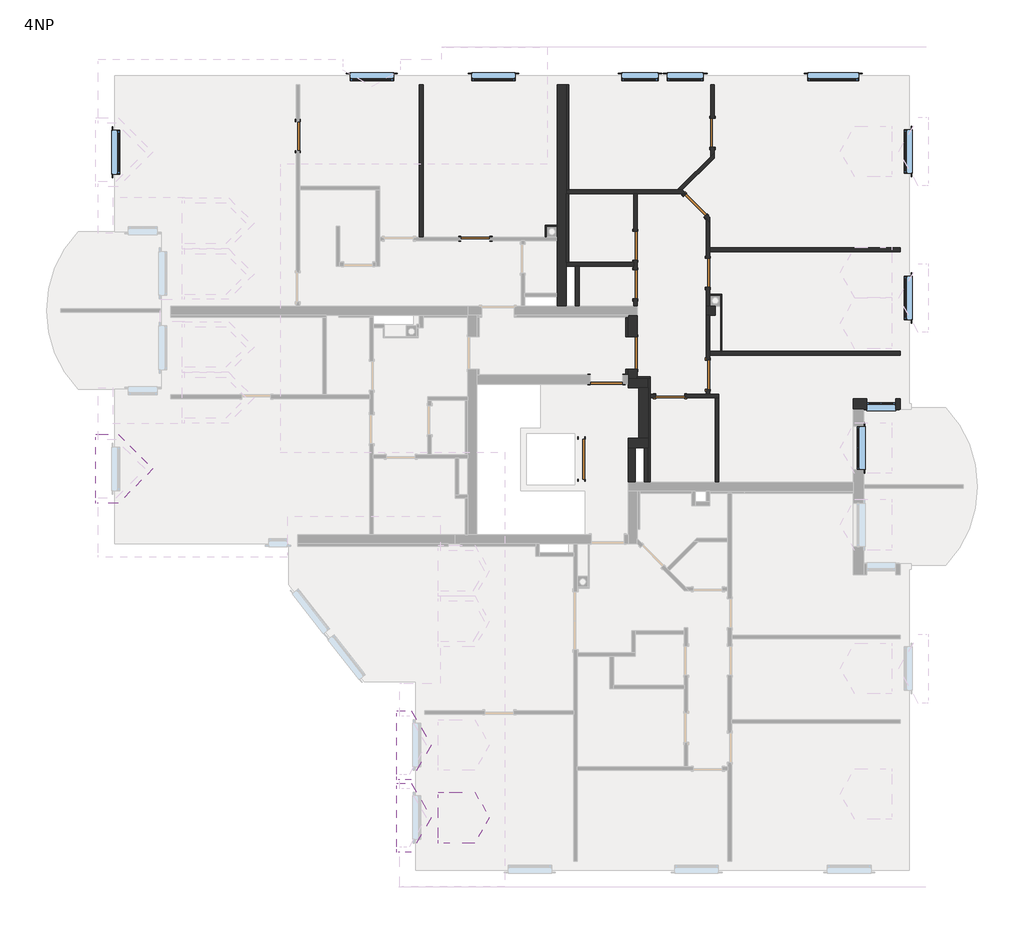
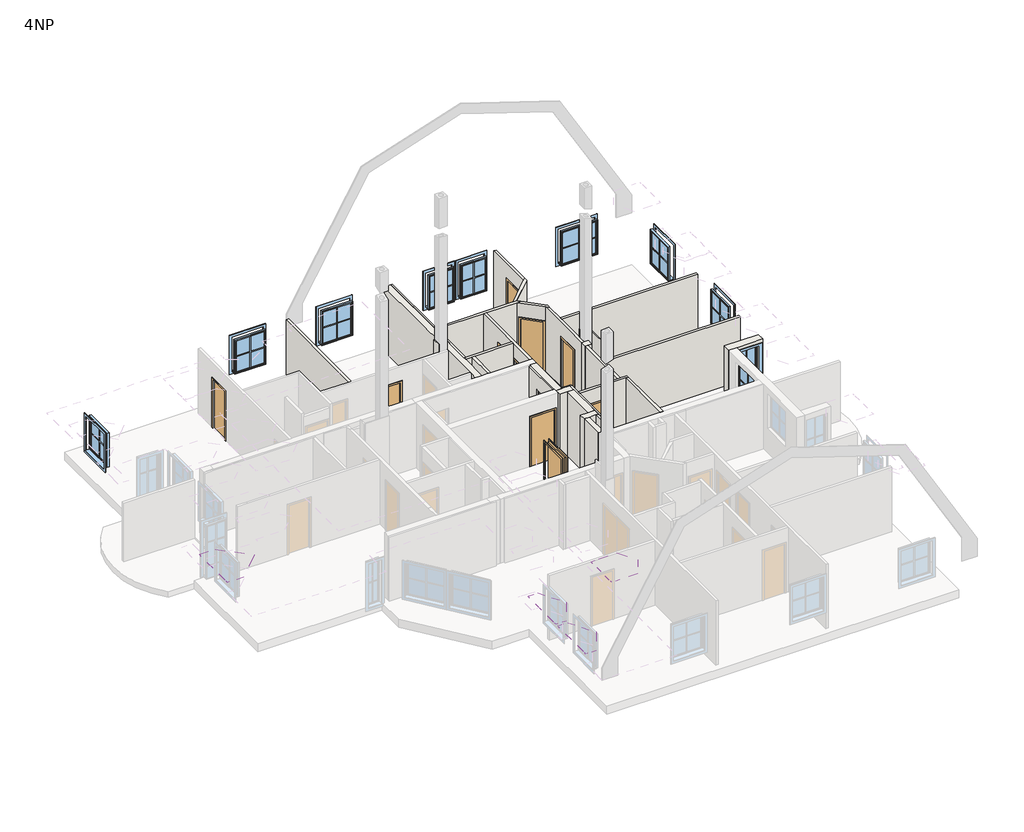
# One storey, part 3 of 5: 32 walls, 12 doors, 10 windows, 4 roofs.
"""IFC4 building model written with IfcOpenShell, lengths in millimetres."""

from ifc_helpers import new_model, si_unit, frame, origin, place, context, project, spatial, polyline, outline, extrude, faceted_brep, transform, mapped, element, save
from components import sd_1100x2000_1d62120a, sd_800x2000_6a16926d, sd_800x2000_80f4ff25, sd_900x2000_a6683946, sd_900x2000_4224ae2a, standard_window_with_mullions_d3525f46, standard_window_with_mullions_80486b60, standard_window_with_mullions_12e20a72, window_2_4fa60929

model = new_model("IFC4")

# Units and contexts
model_context = context("Model", 3, world=origin())
ifc_project = project(units=[si_unit("LENGTHUNIT", "METRE", prefix="MILLI")], contexts=[model_context])

# Site, building, storey
site = spatial("IfcSite", under=ifc_project)
building = spatial("IfcBuilding", under=site)
storey = spatial("IfcBuildingStorey", under=building, Name="4NP", Elevation=8850.0)

# Doors
placement = place(None, origin())
sd_1100x2000_shape = sd_1100x2000_1d62120a(model_context)
element("IfcDoor", 1, ObjectType="JednokridlePlne : SD 1100x2000", at=placement, inside=storey, context=model_context, shape_type="MappedRepresentation", body=[
    mapped(sd_1100x2000_shape, transform((277.8037835, 250.1290541, 8850.0), x_axis=(0.0, -1.0, 0.0), y_axis=(1.0, 0.0, 0.0), z_axis=(0.0, 0.0, 1.0))),
])
sd_800x2000_shape = sd_800x2000_6a16926d(model_context)
element("IfcDoor", 2, ObjectType="JednokridlePlne : SD 800x2000", at=placement, inside=storey, context=model_context, shape_type="MappedRepresentation", body=[
    mapped(sd_800x2000_shape, transform((1762.8037835, 5063.1824611, 8850.0), x_axis=(0.0, 1.0, 0.0), y_axis=(-1.0, 0.0, 0.0), z_axis=(0.0, 0.0, 1.0))),
])
element("IfcDoor", 3, ObjectType="JednokridlePlne : SD 800x2000", at=placement, inside=storey, context=model_context, shape_type="MappedRepresentation", body=[
    mapped(sd_800x2000_shape, transform((2717.8037831, 1986.2076978, 8850.0), x_axis=(1.0, 0.0, 0.0), y_axis=(0.0, 1.0, 0.0), z_axis=(0.0, 0.0, 1.0))),
])
element("IfcDoor", 4, ObjectType="JednokridlePlne : SD 800x2000", at=placement, inside=storey, context=model_context, shape_type="MappedRepresentation", body=[
    mapped(sd_800x2000_shape, transform((3887.8037835, 9237.6290541, 8850.0), x_axis=(0.0, -1.0, 0.0), y_axis=(1.0, 0.0, 0.0), z_axis=(0.0, 0.0, 1.0))),
])
sd_800x2000_2_shape = sd_800x2000_80f4ff25(model_context)
element("IfcDoor", 5, ObjectType="JednokridlePlne : SD 800x2000", at=placement, inside=storey, context=model_context, shape_type="MappedRepresentation", body=[
    mapped(sd_800x2000_2_shape, transform((3762.8037835, 2576.2076972, 8850.0), x_axis=(0.0, -1.0, 0.0), y_axis=(1.0, 0.0, 0.0), z_axis=(0.0, 0.0, 1.0))),
])
element("IfcDoor", 6, ObjectType="JednokridlePlne : SD 800x2000", at=placement, inside=storey, context=model_context, shape_type="MappedRepresentation", body=[
    mapped(sd_800x2000_2_shape, transform((3762.8037835, 5382.3912195, 8850.0), x_axis=(0.0, -1.0, 0.0), y_axis=(1.0, 0.0, 0.0), z_axis=(0.0, 0.0, 1.0))),
])
element("IfcDoor", 7, ObjectType="JednokridlePlne : SD 800x2000", at=placement, inside=storey, context=model_context, shape_type="MappedRepresentation", body=[
    mapped(sd_800x2000_2_shape, transform((3410.8458954, 7240.2976203, 8850.0), x_axis=(0.7071067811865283, -0.7071067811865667, 0.0), y_axis=(0.7071067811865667, 0.7071067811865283, 0.0), z_axis=(0.0, 0.0, 1.0))),
])
element("IfcDoor", 8, ObjectType="JednokridlePlne : SD 800x2000", at=placement, inside=storey, context=model_context, shape_type="MappedRepresentation", body=[
    mapped(sd_800x2000_2_shape, transform((1762.8037835, 6127.9240135, 8850.0), x_axis=(0.0, -1.0, 0.0), y_axis=(1.0, 0.0, 0.0), z_axis=(0.0, 0.0, 1.0))),
])
element("IfcDoor", 9, ObjectType="JednokridlePlne : SD 800x2000", at=placement, inside=storey, context=model_context, shape_type="MappedRepresentation", body=[
    mapped(sd_800x2000_2_shape, transform((-7537.1962165, 9151.243393, 8850.0), x_axis=(0.0, -1.0, 0.0), y_axis=(1.0, 0.0, 0.0), z_axis=(0.0, 0.0, 1.0))),
])
element("IfcDoor", 10, ObjectType="JednokridlePlne : SD 800x2000", at=placement, inside=storey, context=model_context, shape_type="MappedRepresentation", body=[
    mapped(sd_800x2000_2_shape, transform((-2646.4866772, 6317.6290541, 8850.0), x_axis=(1.0, 0.0, 0.0), y_axis=(0.0, 1.0, 0.0), z_axis=(0.0, 0.0, 1.0))),
])
sd_900x2000_shape = sd_900x2000_a6683946(model_context)
element("IfcDoor", 11, ObjectType="JednokridlePlne : SD 900x2000", at=placement, inside=storey, context=model_context, shape_type="MappedRepresentation", body=[
    mapped(sd_900x2000_shape, transform((1687.8037835, 3171.1987133, 8850.0), x_axis=(0.0, 1.0, 0.0), y_axis=(-1.0, 0.0, 0.0), z_axis=(0.0, 0.0, 1.0))),
])
sd_900x2000_2_shape = sd_900x2000_4224ae2a(model_context)
element("IfcDoor", 12, ObjectType="JednokridlePlne : SD 900x2000", at=placement, inside=storey, context=model_context, shape_type="MappedRepresentation", body=[
    mapped(sd_900x2000_2_shape, transform((967.0786115, 2442.6290541, 8850.0), x_axis=(-1.0, 0.0, 0.0), y_axis=(0.0, -1.0, 0.0), z_axis=(0.0, 0.0, 1.0))),
])

# Roofs
element("IfcRoof", 13, ObjectType="Dormer", at=placement, inside=storey, context=model_context, shape_type="Brep", body=[
    faceted_brep([(-13107.1962165, 929.8653683, 10859.1168825), (-13107.1962165, 779.8653683, 10859.1168825), (-13107.1962165, 779.8653683, 11350.0), (-13107.1962165, -20.1346317, 12150.0), (-13107.1962165, -820.1346317, 11350.0), (-13107.1962165, -820.1346317, 10859.1168825), (-13107.1962165, -970.1346317, 10859.1168825), (-13107.1962165, -970.1346317, 11412.1320344), (-13107.1962165, -20.1346317, 12362.1320344), (-13107.1962165, 929.8653683, 11412.1320344), (-12484.1810646, 929.8653683, 11412.1320344), (-13037.1962165, 929.8653683, 10859.1168825), (-11534.1810646, -20.1346317, 12362.1320344), (-12484.1810646, -970.1346317, 11412.1320344), (-13037.1962165, -970.1346317, 10859.1168825), (-13037.1962165, -820.1346317, 10859.1168825), (-12546.313099, -820.1346317, 11350.0), (-11746.313099, -20.1346317, 12150.0), (-12546.313099, 779.8653683, 11350.0), (-13037.1962165, 779.8653683, 10859.1168825)], [[[0, 1, 2, 3, 4, 5, 6, 7, 8, 9]], [[10, 11, 0, 9]], [[12, 10, 9, 8]], [[13, 12, 8, 7]], [[14, 13, 7, 6]], [[15, 14, 6, 5]], [[16, 15, 5, 4]], [[17, 16, 4, 3]], [[18, 17, 3, 2]], [[19, 18, 2, 1]], [[11, 19, 1, 0]], [[11, 10, 12, 13, 14, 15, 16, 17, 18, 19]]]),
])
element("IfcRoof", 14, ObjectType="Dormer", at=placement, inside=storey, context=model_context, shape_type="Brep", body=[
    faceted_brep([(-4807.1962165, -8582.3709452, 10859.1168825), (-4807.1962165, -8582.3709452, 11412.1320344), (-4807.1962165, -7632.3709452, 12362.1320344), (-4807.1962165, -6682.3709452, 11412.1320344), (-4807.1962165, -6682.3709452, 10859.1168825), (-4807.1962165, -6832.3709452, 10859.1168825), (-4807.1962165, -6832.3709452, 11350.0), (-4807.1962165, -7632.3709452, 12150.0), (-4807.1962165, -8432.3709452, 11350.0), (-4807.1962165, -8432.3709452, 10859.1168825), (-4737.1962165, -8582.3709452, 10859.1168825), (-4417.9127697, -8582.3709452, 11412.1320344), (-3869.430014, -7632.3709452, 12362.1320344), (-4417.9127697, -6682.3709452, 11412.1320344), (-4737.1962165, -6682.3709452, 10859.1168825), (-4737.1962165, -6832.3709452, 10859.1168825), (-4453.7847165, -6832.3709452, 11350.0), (-3991.9045011, -7632.3709452, 12150.0), (-4453.7847165, -8432.3709452, 11350.0), (-4737.1962165, -8432.3709452, 10859.1168825)], [[[0, 1, 2, 3, 4, 5, 6, 7, 8, 9]], [[1, 0, 10, 11]], [[2, 1, 11, 12]], [[3, 2, 12, 13]], [[4, 3, 13, 14]], [[5, 4, 14, 15]], [[6, 5, 15, 16]], [[7, 6, 16, 17]], [[8, 7, 17, 18]], [[9, 8, 18, 19]], [[0, 9, 19, 10]], [[10, 19, 18, 17, 16, 15, 14, 13, 12, 11]]]),
])
element("IfcRoof", 15, ObjectType="Dormer", at=placement, inside=storey, context=model_context, shape_type="Brep", body=[
    faceted_brep([(-4807.1962165, -10582.3709452, 10859.1168825), (-4807.1962165, -10582.3709452, 11412.1320344), (-4807.1962165, -9632.3709452, 12362.1320344), (-4807.1962165, -8682.3709452, 11412.1320344), (-4807.1962165, -8682.3709452, 10859.1168825), (-4807.1962165, -8832.3709452, 10859.1168825), (-4807.1962165, -8832.3709452, 11350.0), (-4807.1962165, -9632.3709452, 12150.0), (-4807.1962165, -10432.3709452, 11350.0), (-4807.1962165, -10432.3709452, 10859.1168825), (-4737.1962165, -10582.3709452, 10859.1168825), (-4417.9127697, -10582.3709452, 11412.1320344), (-3869.430014, -9632.3709452, 12362.1320344), (-4417.9127697, -8682.3709452, 11412.1320344), (-4737.1962165, -8682.3709452, 10859.1168825), (-4737.1962165, -8832.3709452, 10859.1168825), (-4453.7847165, -8832.3709452, 11350.0), (-3991.9045011, -9632.3709452, 12150.0), (-4453.7847165, -10432.3709452, 11350.0), (-4737.1962165, -10432.3709452, 10859.1168825)], [[[0, 1, 2, 3, 4, 5, 6, 7, 8, 9]], [[1, 0, 10, 11]], [[2, 1, 11, 12]], [[3, 2, 12, 13]], [[4, 3, 13, 14]], [[5, 4, 14, 15]], [[6, 5, 15, 16]], [[7, 6, 16, 17]], [[8, 7, 17, 18]], [[9, 8, 18, 19]], [[0, 9, 19, 10]], [[10, 19, 18, 17, 16, 15, 14, 13, 12, 11]]]),
])
element("IfcRoof", 16, ObjectType="Dormer", at=placement, inside=storey, context=model_context, shape_type="Brep", body=[
    faceted_brep([(-3668.9496412, -10332.3709452, 13245.9738747), (-3668.9496412, -10332.3709452, 14450.0), (-3668.9496412, -9632.3709452, 15150.0), (-3668.9496412, -8932.3709452, 14450.0), (-3668.9496412, -8932.3709452, 13239.8778747), (-3668.9496412, -9082.3709452, 13239.8778747), (-3668.9496412, -9082.3709452, 14387.8679656), (-3668.9496412, -9632.3709452, 14937.8679656), (-3668.9496412, -10182.3709452, 14387.8679656), (-3668.9496412, -10182.3709452, 13245.9738747), (-3359.1436895, -10332.3709452, 13245.9738747), (-2663.998882, -10332.3709452, 14450.0), (-2259.8536936, -9632.3709452, 15150.0), (-2663.998882, -8932.3709452, 14450.0), (-3362.6632168, -8932.3709452, 13239.8778747), (-3362.6632168, -9082.3709452, 13239.8778747), (-2699.8708287, -9082.3709452, 14387.8679656), (-2382.3281807, -9632.3709452, 14937.8679656), (-2699.8708287, -10182.3709452, 14387.8679656), (-3359.1436895, -10182.3709452, 13245.9738747)], [[[0, 1, 2, 3, 4, 5, 6, 7, 8, 9]], [[1, 0, 10, 11]], [[2, 1, 11, 12]], [[3, 2, 12, 13]], [[4, 3, 13, 14]], [[5, 4, 14, 15]], [[6, 5, 15, 16]], [[7, 6, 16, 17]], [[8, 7, 17, 18]], [[9, 8, 18, 19]], [[0, 9, 19, 10]], [[10, 19, 18, 17, 16, 15, 14, 13, 12, 11]]]),
])

# Walls
element("IfcWall", 17, ObjectType="Exterior - 250+50mm", at=placement, inside=storey, context=model_context, shape_type="Brep", body=[
    faceted_brep([(9062.8037835, 1917.6290541, 8850.0), (8932.977935, 1917.6290541, 8850.0), (8932.977935, 1917.6290541, 11250.0), (8132.977935, 1917.6290541, 11250.0), (8132.977935, 1917.6290541, 8850.0), (7762.8037835, 1917.6290541, 8850.0), (7762.8037835, 1917.6290541, 11480.0), (9062.8037835, 1917.6290541, 11480.0), (8932.977935, 1617.6290541, 11250.0), (8932.977935, 1617.6290541, 8850.0), (9062.8037835, 1617.6290541, 8850.0), (9062.8037835, 1617.6290541, 11480.0), (8062.8037835, 1617.6290541, 11480.0), (7762.8037835, 1617.6290541, 11480.0), (7762.8037835, 1617.6290541, 8850.0), (8062.8037835, 1617.6290541, 8850.0), (8132.977935, 1617.6290541, 8850.0), (8132.977935, 1617.6290541, 11250.0)], [[[0, 1, 2, 3, 4, 5, 6, 7]], [[8, 9, 10, 11, 12, 13, 14, 15, 16, 17]], [[10, 9, 1, 0]], [[16, 15, 14, 5, 4]], [[6, 5, 14, 13]], [[0, 7, 11, 10]], [[7, 6, 13, 12, 11]], [[2, 1, 9, 8]], [[3, 2, 8, 17]], [[4, 3, 17, 16]]]),
])
element("IfcWall", 18, ObjectType="Interior - 100mm", at=placement, inside=storey, context=model_context, shape_type="Brep", body=[
    faceted_brep([(3117.8037831, 1936.2076978, 10850.0), (3117.8037831, 1936.2076978, 8850.0), (3962.8037835, 1936.2076978, 8850.0), (4062.8037835, 1936.2076978, 8850.0), (4062.8037835, 1936.2076978, 11480.0), (3962.8037835, 1936.2076978, 11480.0), (2177.8037835, 1936.2076978, 11480.0), (2177.8037835, 1936.2076978, 8850.0), (2317.8037831, 1936.2076978, 8850.0), (2317.8037831, 1936.2076978, 10850.0), (4062.8037835, 2036.2076978, 8850.0), (3812.8037835, 2036.2076978, 8850.0), (3712.8037835, 2036.2076978, 8850.0), (3117.8037831, 2036.2076978, 8850.0), (3117.8037831, 2036.2076978, 10850.0), (2317.8037831, 2036.2076978, 10850.0), (2317.8037831, 2036.2076978, 8850.0), (2177.8037835, 2036.2076978, 8850.0), (2177.8037835, 2036.2076978, 11480.0), (3712.8037835, 2036.2076978, 11480.0), (3812.8037835, 2036.2076978, 11480.0), (4062.8037835, 2036.2076978, 11480.0)], [[[0, 1, 2, 3, 4, 5, 6, 7, 8, 9]], [[10, 11, 12, 13, 14, 15, 16, 17, 18, 19, 20, 21]], [[3, 2, 1, 13, 12, 11, 10]], [[8, 7, 17, 16]], [[4, 3, 10, 21]], [[7, 6, 18, 17]], [[6, 5, 4, 21, 20, 19, 18]], [[14, 13, 1, 0]], [[15, 14, 0, 9]], [[16, 15, 9, 8]]]),
])
element("IfcWall", 19, ObjectType="Interior - 100mm", at=placement, inside=storey, context=model_context, shape_type="SweptSolid", body=[
    extrude(outline(polyline([(3962.8037835, -382.3709459), (3962.8037835, 1936.2076978), (4062.8037835, 1936.2076978), (4062.8037835, -382.3709459), (3962.8037835, -382.3709459)])), frame((0.0, 0.0, 8850.0), z_axis=(0.0, 0.0, 1.0), x_axis=(1.0, 0.0, 0.0)), (0.0, 0.0, 1.0), 2630.0),
])
element("IfcWall", 20, ObjectType="Interior - 100mm", at=placement, inside=storey, context=model_context, shape_type="SweptSolid", body=[
    extrude(outline(polyline([(2012.8037835, -382.3709459), (2012.8037835, 567.6290541), (2112.8037835, 567.6290541), (2112.8037835, -382.3709459), (2012.8037835, -382.3709459)])), frame((0.0, 0.0, 8850.0), z_axis=(0.0, 0.0, 1.0), x_axis=(1.0, 0.0, 0.0)), (0.0, 0.0, 1.0), 2630.0),
])
element("IfcWall", 21, ObjectType="Interior - 100mm", at=placement, inside=storey, context=model_context, shape_type="Brep", body=[
    faceted_brep([(-137.1962165, 7567.6290541, 8850.0), (-72.1962165, 7567.6290541, 8850.0), (1712.8037835, 7567.6290541, 8850.0), (1812.8037835, 7567.6290541, 8850.0), (3012.8037835, 7567.6290541, 8850.0), (3154.2251397, 7567.6290541, 8850.0), (3154.2251397, 7567.6290541, 11480.0), (3012.8037835, 7567.6290541, 11480.0), (1812.8037835, 7567.6290541, 11480.0), (1712.8037835, 7567.6290541, 11480.0), (-72.1962165, 7567.6290541, 11480.0), (-137.1962165, 7567.6290541, 11480.0), (-137.1962165, 7667.6290541, 8850.0), (-137.1962165, 7667.6290541, 11480.0), (2911.5788256, 7667.6290541, 11480.0), (3054.2251397, 7667.6290541, 11480.0), (3054.2251397, 7667.6290541, 8850.0), (2911.5788256, 7667.6290541, 8850.0)], [[[0, 1, 2, 3, 4, 5, 6, 7, 8, 9, 10, 11]], [[12, 13, 14, 15, 16, 17]], [[5, 4, 3, 2, 1, 0, 12, 17, 16]], [[6, 5, 16, 15]], [[0, 11, 13, 12]], [[11, 10, 9, 8, 7, 6, 15, 14, 13]]]),
])
element("IfcWall", 22, ObjectType="Interior - 100mm", at=placement, inside=storey, context=model_context, shape_type="Brep", body=[
    faceted_brep([(3812.8037835, 6767.6290541, 8850.0), (3812.8037835, 6767.6290541, 11480.0), (3712.8037835, 6867.6290541, 11480.0), (3012.8037835, 7567.6290541, 11480.0), (3012.8037835, 7567.6290541, 8850.0), (3092.6478438, 7487.7849937, 8850.0), (3092.6478438, 7487.7849937, 10850.0), (3658.3332688, 6922.0995688, 10850.0), (3658.3332688, 6922.0995688, 8850.0), (3712.8037835, 6867.6290541, 8850.0), (3812.8037835, 6909.0504103, 11480.0), (3812.8037835, 6909.0504103, 8850.0), (3729.0439469, 6992.8102469, 8850.0), (3729.0439469, 6992.8102469, 10850.0), (3163.3585219, 7558.4956719, 10850.0), (3163.3585219, 7558.4956719, 8850.0), (3154.2251397, 7567.6290541, 8850.0), (3154.2251397, 7567.6290541, 11480.0)], [[[0, 1, 2, 3, 4, 5, 6, 7, 8, 9]], [[10, 11, 12, 13, 14, 15, 16, 17]], [[11, 0, 9, 8, 12]], [[4, 16, 15, 5]], [[1, 0, 11, 10]], [[4, 3, 17, 16]], [[3, 2, 1, 10, 17]], [[7, 13, 12, 8]], [[13, 7, 6, 14]], [[14, 6, 5, 15]]]),
])
element("IfcWall", 23, ObjectType="Interior - 100mm", at=placement, inside=storey, context=model_context, shape_type="Brep", body=[
    faceted_brep([(3712.8037835, 4982.3912195, 10850.0), (3712.8037835, 4982.3912195, 8850.0), (3712.8037835, 4467.6290541, 8850.0), (3712.8037835, 4467.6290541, 11480.0), (3712.8037835, 6867.6290541, 11480.0), (3712.8037835, 6867.6290541, 8850.0), (3712.8037835, 5782.3912195, 8850.0), (3712.8037835, 5782.3912195, 10850.0), (3812.8037835, 4467.6290541, 8850.0), (3812.8037835, 4767.6290541, 8850.0), (3812.8037835, 4797.6290541, 8850.0), (3812.8037835, 4982.3912195, 8850.0), (3812.8037835, 4982.3912195, 10850.0), (3812.8037835, 5782.3912195, 10850.0), (3812.8037835, 5782.3912195, 8850.0), (3812.8037835, 5967.6290541, 8850.0), (3812.8037835, 6067.6290541, 8850.0), (3812.8037835, 6767.6290541, 8850.0), (3812.8037835, 6767.6290541, 11480.0), (3812.8037835, 6067.6290541, 11480.0), (3812.8037835, 5967.6290541, 11480.0), (3812.8037835, 4467.6290541, 11480.0)], [[[0, 1, 2, 3, 4, 5, 6, 7]], [[8, 9, 10, 11, 12, 13, 14, 15, 16, 17, 18, 19, 20, 21]], [[2, 1, 11, 10, 9, 8]], [[6, 5, 17, 16, 15, 14]], [[5, 4, 18, 17]], [[3, 2, 8, 21]], [[4, 3, 21, 20, 19, 18]], [[12, 11, 1, 0]], [[13, 12, 0, 7]], [[14, 13, 7, 6]]]),
])
element("IfcWall", 24, ObjectType="Interior - 100mm", at=placement, inside=storey, context=model_context, shape_type="SweptSolid", body=[
    extrude(outline(polyline([(9062.8037835, 5967.6290541), (3812.8037835, 5967.6290541), (3812.8037835, 6067.6290541), (9062.8037835, 6067.6290541), (9062.8037835, 5967.6290541)])), frame((0.0, 0.0, 8850.0), z_axis=(0.0, 0.0, 1.0), x_axis=(1.0, 0.0, 0.0)), (0.0, 0.0, 1.0), 2630.0),
])
element("IfcWall", 25, ObjectType="Interior - 100mm", at=placement, inside=storey, context=model_context, shape_type="Brep", body=[
    faceted_brep([(1712.8037835, 5727.9240135, 10850.0), (1712.8037835, 5727.9240135, 8850.0), (1712.8037835, 5667.6290541, 8850.0), (1712.8037835, 5567.6290541, 8850.0), (1712.8037835, 5463.1824611, 8850.0), (1712.8037835, 5463.1824611, 10850.0), (1712.8037835, 4663.1824611, 10850.0), (1712.8037835, 4663.1824611, 8850.0), (1712.8037835, 4467.6290541, 8850.0), (1712.8037835, 4467.6290541, 11480.0), (1712.8037835, 5567.6290541, 11480.0), (1712.8037835, 5667.6290541, 11480.0), (1712.8037835, 7567.6290541, 11480.0), (1712.8037835, 7567.6290541, 8850.0), (1712.8037835, 6527.9240135, 8850.0), (1712.8037835, 6527.9240135, 10850.0), (1812.8037835, 5463.1824611, 8850.0), (1812.8037835, 5727.9240135, 8850.0), (1812.8037835, 5727.9240135, 10850.0), (1812.8037835, 6527.9240135, 10850.0), (1812.8037835, 6527.9240135, 8850.0), (1812.8037835, 7567.6290541, 8850.0), (1812.8037835, 7567.6290541, 11480.0), (1812.8037835, 4467.6290541, 11480.0), (1812.8037835, 4467.6290541, 8850.0), (1812.8037835, 4663.1824611, 8850.0), (1812.8037835, 4663.1824611, 10850.0), (1812.8037835, 5463.1824611, 10850.0)], [[[0, 1, 2, 3, 4, 5, 6, 7, 8, 9, 10, 11, 12, 13, 14, 15]], [[16, 17, 18, 19, 20, 21, 22, 23, 24, 25, 26, 27]], [[4, 3, 2, 1, 17, 16]], [[25, 24, 8, 7]], [[14, 13, 21, 20]], [[13, 12, 22, 21]], [[9, 8, 24, 23]], [[12, 11, 10, 9, 23, 22]], [[5, 4, 16, 27]], [[6, 5, 27, 26]], [[7, 6, 26, 25]], [[18, 17, 1, 0]], [[19, 18, 0, 15]], [[20, 19, 15, 14]]]),
])
element("IfcWall", 26, ObjectType="Interior - 100mm", at=placement, inside=storey, context=model_context, shape_type="Brep", body=[
    faceted_brep([(1712.8037835, 5667.6290541, 8850.0), (-137.1962165, 5667.6290541, 8850.0), (-137.1962165, 5667.6290541, 11480.0), (1712.8037835, 5667.6290541, 11480.0), (1712.8037835, 5567.6290541, 8850.0), (1712.8037835, 5567.6290541, 11480.0), (212.8037835, 5567.6290541, 11480.0), (112.8037835, 5567.6290541, 11480.0), (-137.1962165, 5567.6290541, 11480.0), (-137.1962165, 5567.6290541, 8850.0), (112.8037835, 5567.6290541, 8850.0), (212.8037835, 5567.6290541, 8850.0)], [[[0, 1, 2, 3]], [[4, 5, 6, 7, 8, 9, 10, 11]], [[1, 0, 4, 11, 10, 9]], [[2, 1, 9, 8]], [[0, 3, 5, 4]], [[3, 2, 8, 7, 6, 5]]]),
])
element("IfcWall", 27, ObjectType="Interior - 100mm", at=placement, inside=storey, context=model_context, shape_type="SweptSolid", body=[
    extrude(outline(polyline([(112.8037835, 4467.6290541), (112.8037835, 5567.6290541), (212.8037835, 5567.6290541), (212.8037835, 4467.6290541), (112.8037835, 4467.6290541)])), frame((0.0, 0.0, 8850.0), z_axis=(0.0, 0.0, 1.0), x_axis=(1.0, 0.0, 0.0)), (0.0, 0.0, 1.0), 2630.0),
])
element("IfcWall", 28, ObjectType="Interior - 100mm", at=placement, inside=storey, context=model_context, shape_type="Brep", body=[
    faceted_brep([(9062.8037835, 3216.2076978, 8850.0), (4142.8037835, 3216.2076978, 8850.0), (4112.8037835, 3216.2076978, 8850.0), (3812.8037835, 3216.2076978, 8850.0), (3812.8037835, 3216.2076978, 11480.0), (9062.8037835, 3216.2076978, 11480.0), (9062.8037835, 3116.2076978, 8850.0), (9062.8037835, 3116.2076978, 11480.0), (3812.8037835, 3116.2076978, 11480.0), (3812.8037835, 3116.2076978, 8850.0)], [[[0, 1, 2, 3, 4, 5]], [[6, 7, 8, 9]], [[3, 2, 1, 0, 6, 9]], [[4, 3, 9, 8]], [[0, 5, 7, 6]], [[5, 4, 8, 7]]]),
])
element("IfcWall", 29, ObjectType="Interior - 100mm", at=placement, inside=storey, context=model_context, shape_type="Brep", body=[
    faceted_brep([(3712.8037835, 2176.2076972, 10850.0), (3712.8037835, 2176.2076972, 8850.0), (3712.8037835, 2036.2076978, 8850.0), (3712.8037835, 2036.2076978, 11480.0), (3712.8037835, 4217.6290541, 11480.0), (3712.8037835, 4217.6290541, 8850.0), (3712.8037835, 2976.2076972, 8850.0), (3712.8037835, 2976.2076972, 10850.0), (3812.8037835, 2036.2076978, 8850.0), (3812.8037835, 2176.2076972, 8850.0), (3812.8037835, 2176.2076972, 10850.0), (3812.8037835, 2976.2076972, 10850.0), (3812.8037835, 2976.2076972, 8850.0), (3812.8037835, 3116.2076978, 8850.0), (3812.8037835, 3216.2076978, 8850.0), (3812.8037835, 4217.6290541, 8850.0), (3812.8037835, 4217.6290541, 11480.0), (3812.8037835, 3216.2076978, 11480.0), (3812.8037835, 3116.2076978, 11480.0), (3812.8037835, 2036.2076978, 11480.0)], [[[0, 1, 2, 3, 4, 5, 6, 7]], [[8, 9, 10, 11, 12, 13, 14, 15, 16, 17, 18, 19]], [[2, 1, 9, 8]], [[6, 5, 15, 14, 13, 12]], [[3, 2, 8, 19]], [[5, 4, 16, 15]], [[4, 3, 19, 18, 17, 16]], [[10, 9, 1, 0]], [[11, 10, 0, 7]], [[12, 11, 7, 6]]]),
])
element("IfcWall", 30, ObjectType="Interior - 100mm", at=placement, inside=storey, context=model_context, shape_type="Brep", body=[
    faceted_brep([(3054.2251397, 7667.6290541, 8850.0), (3937.8037835, 8536.2246244, 8850.0), (3937.8037835, 8536.2246244, 11480.0), (3054.2251397, 7667.6290541, 11480.0), (2911.5788256, 7667.6290541, 8850.0), (2911.5788256, 7667.6290541, 11480.0), (3837.8037835, 8578.1477739, 11480.0), (3937.8037835, 8676.4520478, 11480.0), (3937.8037835, 8676.4520478, 8850.0), (3837.8037835, 8578.1477739, 8850.0)], [[[0, 1, 2, 3]], [[4, 5, 6, 7, 8, 9]], [[1, 0, 4, 9, 8]], [[2, 1, 8, 7]], [[0, 3, 5, 4]], [[3, 2, 7, 6, 5]]]),
])
element("IfcWall", 31, ObjectType="Interior - 100mm", at=placement, inside=storey, context=model_context, shape_type="Brep", body=[
    faceted_brep([(3937.8037835, 8676.4520478, 8850.0), (3937.8037835, 8837.6290541, 8850.0), (3937.8037835, 8837.6290541, 10850.0), (3937.8037835, 9637.6290541, 10850.0), (3937.8037835, 9637.6290541, 8850.0), (3937.8037835, 10567.6290541, 8850.0), (3937.8037835, 10567.6290541, 11480.0), (3937.8037835, 8676.4520478, 11480.0), (3837.8037835, 8837.6290541, 10850.0), (3837.8037835, 8837.6290541, 8850.0), (3837.8037835, 8578.1477739, 8850.0), (3837.8037835, 8578.1477739, 11480.0), (3837.8037835, 10567.6290541, 11480.0), (3837.8037835, 10567.6290541, 8850.0), (3837.8037835, 9637.6290541, 8850.0), (3837.8037835, 9637.6290541, 10850.0)], [[[0, 1, 2, 3, 4, 5, 6, 7]], [[8, 9, 10, 11, 12, 13, 14, 15]], [[10, 9, 1, 0]], [[14, 13, 5, 4]], [[0, 7, 11, 10]], [[6, 5, 13, 12]], [[7, 6, 12, 11]], [[2, 1, 9, 8]], [[3, 2, 8, 15]], [[4, 3, 15, 14]]]),
])
element("IfcWall", 32, ObjectType="Interior - 100mm", at=placement, inside=storey, context=model_context, shape_type="SweptSolid", body=[
    extrude(outline(polyline([(-4087.1962165, 10567.6290541), (-4087.1962165, 6367.6290541), (-4187.1962165, 6367.6290541), (-4187.1962165, 10567.6290541), (-4087.1962165, 10567.6290541)])), frame((0.0, 0.0, 8850.0), z_axis=(0.0, 0.0, 1.0), x_axis=(1.0, 0.0, 0.0)), (0.0, 0.0, 1.0), 2630.0),
])
element("IfcWall", 33, ObjectType="Interior - 200mm", at=placement, inside=storey, context=model_context, shape_type="SweptSolid", body=[
    extrude(outline(polyline([(1562.8087381, -382.3709459), (1562.8087381, 567.6290541), (1762.8087381, 567.6290541), (1762.8087381, -382.3709459), (1562.8087381, -382.3709459)])), frame((0.0, 0.0, 8850.0), z_axis=(0.0, 0.0, 1.0), x_axis=(1.0, 0.0, 0.0)), (0.0, 0.0, 1.0), 2630.0),
])
element("IfcWall", 34, ObjectType="Interior - 250mm", at=placement, inside=storey, context=model_context, shape_type="Brep", body=[
    faceted_brep([(3712.8037835, 4217.6290541, 8850.0), (3812.8037835, 4217.6290541, 8850.0), (3962.8037835, 4217.6290541, 8850.0), (3962.8037835, 4217.6290541, 11480.0), (3812.8037835, 4217.6290541, 11480.0), (3712.8037835, 4217.6290541, 11480.0), (3712.8037835, 4467.6290541, 8850.0), (3712.8037835, 4467.6290541, 11480.0), (3812.8037835, 4467.6290541, 11480.0), (3962.8037835, 4467.6290541, 11480.0), (3962.8037835, 4467.6290541, 8850.0), (3812.8037835, 4467.6290541, 8850.0)], [[[0, 1, 2, 3, 4, 5]], [[6, 7, 8, 9, 10, 11]], [[2, 1, 0, 6, 11, 10]], [[3, 2, 10, 9]], [[0, 5, 7, 6]], [[5, 4, 3, 9, 8, 7]]]),
])
element("IfcWall", 35, ObjectType="Interior - 250mm", at=placement, inside=storey, context=model_context, shape_type="SweptSolid", body=[
    extrude(outline(polyline([(2112.8037835, 2217.6290541), (2112.8037835, 817.6290541), (1862.8037835, 817.6290541), (1862.8037835, 2217.6290541), (2112.8037835, 2217.6290541)])), frame((0.0, 0.0, 8850.0), z_axis=(0.0, 0.0, 1.0), x_axis=(1.0, 0.0, 0.0)), (0.0, 0.0, 1.0), 2630.0),
])
element("IfcWall", 36, ObjectType="Interior - 250mm", at=placement, inside=storey, context=model_context, shape_type="Brep", body=[
    faceted_brep([(2112.8037835, 2467.6290541, 8850.0), (1812.8037835, 2467.6290541, 8850.0), (1562.8037835, 2467.6290541, 8850.0), (1562.8037835, 2467.6290541, 11480.0), (1812.8037835, 2467.6290541, 11480.0), (2112.8037835, 2467.6290541, 11480.0), (2112.8037835, 2217.6290541, 8850.0), (2112.8037835, 2217.6290541, 11480.0), (1862.8037835, 2217.6290541, 11480.0), (1562.8037835, 2217.6290541, 11480.0), (1562.8037835, 2217.6290541, 8850.0), (1862.8037835, 2217.6290541, 8850.0), (1562.8037835, 2317.6290541, 8850.0), (1562.8037835, 2317.6290541, 11480.0)], [[[0, 1, 2, 3, 4, 5]], [[6, 7, 8, 9, 10, 11]], [[2, 1, 0, 6, 11, 10, 12]], [[3, 2, 12, 10, 9, 13]], [[0, 5, 7, 6]], [[5, 4, 3, 13, 9, 8, 7]]]),
])
element("IfcWall", 37, ObjectType="Interior - 250mm", at=placement, inside=storey, context=model_context, shape_type="Brep", body=[
    faceted_brep([(1812.8037835, 3621.1987133, 10850.0), (1812.8037835, 3621.1987133, 8850.0), (1812.8037835, 4217.6290541, 8850.0), (1812.8037835, 4217.6290541, 11480.0), (1812.8037835, 2522.6290541, 11480.0), (1812.8037835, 2467.6290541, 11480.0), (1812.8037835, 2467.6290541, 8850.0), (1812.8037835, 2522.6290541, 8850.0), (1812.8037835, 2721.1987133, 8850.0), (1812.8037835, 2721.1987133, 10850.0), (1562.8037835, 4217.6290541, 8850.0), (1562.8037835, 4152.6290541, 8850.0), (1562.8037835, 3621.1987133, 8850.0), (1562.8037835, 3621.1987133, 10850.0), (1562.8037835, 2721.1987133, 10850.0), (1562.8037835, 2721.1987133, 8850.0), (1562.8037835, 2567.6290541, 8850.0), (1562.8037835, 2467.6290541, 8850.0), (1562.8037835, 2467.6290541, 11480.0), (1562.8037835, 2567.6290541, 11480.0), (1562.8037835, 4152.6290541, 11480.0), (1562.8037835, 4217.6290541, 11480.0)], [[[0, 1, 2, 3, 4, 5, 6, 7, 8, 9]], [[10, 11, 12, 13, 14, 15, 16, 17, 18, 19, 20, 21]], [[2, 1, 12, 11, 10]], [[8, 7, 6, 17, 16, 15]], [[6, 5, 18, 17]], [[3, 2, 10, 21]], [[5, 4, 3, 21, 20, 19, 18]], [[13, 12, 1, 0]], [[14, 13, 0, 9]], [[15, 14, 9, 8]]]),
])
element("IfcWall", 38, ObjectType="Interior - 250mm", at=placement, inside=storey, context=model_context, shape_type="Brep", body=[
    faceted_brep([(-387.1962165, 10567.6290541, 8850.0), (-387.1962165, 6697.6290541, 8850.0), (-387.1962165, 6667.6290541, 8850.0), (-387.1962165, 6367.6290541, 8850.0), (-387.1962165, 6267.6290541, 8850.0), (-387.1962165, 4817.6290541, 8850.0), (-387.1962165, 4717.6290541, 8850.0), (-387.1962165, 4467.6290541, 8850.0), (-387.1962165, 4467.6290541, 11480.0), (-387.1962165, 4717.6290541, 11480.0), (-387.1962165, 4817.6290541, 11480.0), (-387.1962165, 6267.6290541, 11480.0), (-387.1962165, 6367.6290541, 11480.0), (-387.1962165, 10567.6290541, 11480.0), (-137.1962165, 10567.6290541, 8850.0), (-137.1962165, 10567.6290541, 11480.0), (-137.1962165, 7667.6290541, 11480.0), (-137.1962165, 7567.6290541, 11480.0), (-137.1962165, 5667.6290541, 11480.0), (-137.1962165, 5567.6290541, 11480.0), (-137.1962165, 4467.6290541, 11480.0), (-137.1962165, 4467.6290541, 8850.0), (-137.1962165, 5567.6290541, 8850.0), (-137.1962165, 5667.6290541, 8850.0), (-137.1962165, 7567.6290541, 8850.0), (-137.1962165, 7667.6290541, 8850.0)], [[[0, 1, 2, 3, 4, 5, 6, 7, 8, 9, 10, 11, 12, 13]], [[14, 15, 16, 17, 18, 19, 20, 21, 22, 23, 24, 25]], [[7, 6, 5, 4, 3, 2, 1, 0, 14, 25, 24, 23, 22, 21]], [[8, 7, 21, 20]], [[0, 13, 15, 14]], [[13, 12, 11, 10, 9, 8, 20, 19, 18, 17, 16, 15]]]),
])
element("IfcWall", 39, ObjectType="Interior - 250mm", at=placement, inside=storey, context=model_context, shape_type="Brep", body=[
    faceted_brep([(2112.8037835, 817.6290541, 8850.0), (1862.8037835, 817.6290541, 8850.0), (1562.8087381, 817.6290541, 8850.0), (1562.8087381, 817.6290541, 11480.0), (1862.8037835, 817.6290541, 11480.0), (2112.8037835, 817.6290541, 11480.0), (2112.8037835, 567.6290541, 8850.0), (2112.8037835, 567.6290541, 11480.0), (2012.8037835, 567.6290541, 11480.0), (1762.8087381, 567.6290541, 11480.0), (1562.8087381, 567.6290541, 11480.0), (1562.8087381, 567.6290541, 8850.0), (1762.8087381, 567.6290541, 8850.0), (2012.8037835, 567.6290541, 8850.0)], [[[0, 1, 2, 3, 4, 5]], [[6, 7, 8, 9, 10, 11, 12, 13]], [[2, 1, 0, 6, 13, 12, 11]], [[0, 5, 7, 6]], [[3, 2, 11, 10]], [[5, 4, 3, 10, 9, 8, 7]]]),
])
element("IfcWall", 40, ObjectType="Interior - 300mm", at=placement, inside=storey, context=model_context, shape_type="Brep", body=[
    faceted_brep([(3812.8037835, 4767.6290541, 8850.0), (4112.8037835, 4767.6290541, 8850.0), (4142.8037835, 4767.6290541, 8850.0), (4142.8037835, 4767.6290541, 11800.0), (4112.8037835, 4767.6290541, 11800.0), (3812.8037835, 4767.6290541, 11800.0), (3812.8037835, 4797.6290541, 8850.0), (3812.8037835, 4797.6290541, 11800.0), (4142.8037835, 4797.6290541, 11800.0), (4142.8037835, 4797.6290541, 8850.0)], [[[0, 1, 2, 3, 4, 5]], [[6, 7, 8, 9]], [[2, 1, 0, 6, 9]], [[5, 4, 3, 8, 7]], [[3, 2, 9, 8]], [[0, 5, 7, 6]]]),
])
element("IfcWall", 41, ObjectType="Interior - 300mm", at=placement, inside=storey, context=model_context, shape_type="Brep", body=[
    faceted_brep([(4112.8037835, 4767.6290541, 8850.0), (4112.8037835, 4467.6290541, 8850.0), (4112.8037835, 3216.2076978, 8850.0), (4112.8037835, 3216.2076978, 11800.0), (4112.8037835, 4767.6290541, 11800.0), (4142.8037835, 4767.6290541, 8850.0), (4142.8037835, 4767.6290541, 11800.0), (4142.8037835, 3216.2076978, 11800.0), (4142.8037835, 3216.2076978, 8850.0)], [[[0, 1, 2, 3, 4]], [[5, 6, 7, 8]], [[2, 1, 0, 5, 8]], [[4, 3, 7, 6]], [[0, 4, 6, 5]], [[3, 2, 8, 7]]]),
])
element("IfcWall", 42, ObjectType="Interior - 300mm", at=placement, inside=storey, context=model_context, shape_type="Brep", body=[
    faceted_brep([(-687.1962165, 6367.6290541, 8850.0), (-687.1962165, 6667.6290541, 8850.0), (-687.1962165, 6697.6290541, 8850.0), (-687.1962165, 6697.6290541, 11800.0), (-687.1962165, 6667.6290541, 11800.0), (-687.1962165, 6367.6290541, 11800.0), (-717.1962165, 6367.6290541, 8850.0), (-717.1962165, 6367.6290541, 11800.0), (-717.1962165, 6697.6290541, 11800.0), (-717.1962165, 6697.6290541, 8850.0)], [[[0, 1, 2, 3, 4, 5]], [[6, 7, 8, 9]], [[2, 1, 0, 6, 9]], [[5, 4, 3, 8, 7]], [[3, 2, 9, 8]], [[0, 5, 7, 6]]]),
])
element("IfcWall", 43, ObjectType="Interior - 300mm", at=placement, inside=storey, context=model_context, shape_type="SweptSolid", body=[
    extrude(outline(polyline([(-387.1962165, 6667.6290541), (-687.1962165, 6667.6290541), (-687.1962165, 6697.6290541), (-387.1962165, 6697.6290541), (-387.1962165, 6667.6290541)])), frame((0.0, 0.0, 8850.0), z_axis=(0.0, 0.0, 1.0), x_axis=(1.0, 0.0, 0.0)), (0.0, 0.0, 1.0), 2950.0),
])
element("IfcWall", 44, ObjectType="Interior - 65mm", at=placement, inside=storey, context=model_context, shape_type="SweptSolid", body=[
    extrude(outline(polyline([(4152.6290541, 8850.0), (3621.1987133, 8850.0), (3621.1987133, 10850.0), (2721.1987133, 10850.0), (2721.1987133, 8850.0), (2567.6290541, 8850.0), (2567.6290541, 11480.0), (4152.6290541, 11480.0), (4152.6290541, 8850.0)])), frame((1497.8037835, 0.0, 0.0), z_axis=(1.0, 0.0, 0.0), x_axis=(0.0, 1.0, 0.0)), (0.0, 0.0, 1.0), 65.0),
])
element("IfcWall", 45, ObjectType="Interior - 65mm", at=placement, inside=storey, context=model_context, shape_type="Brep", body=[
    faceted_brep([(1812.8037835, 2457.6290541, 8850.0), (2112.8037835, 2457.6290541, 8850.0), (2177.8037835, 2457.6290541, 8850.0), (2177.8037835, 2457.6290541, 11480.0), (2112.8037835, 2457.6290541, 11480.0), (1812.8037835, 2457.6290541, 11480.0), (1812.8037835, 2522.6290541, 8850.0), (1812.8037835, 2522.6290541, 11480.0), (2177.8037835, 2522.6290541, 11480.0), (2177.8037835, 2522.6290541, 8850.0), (1812.8037835, 2467.6290541, 8850.0), (1812.8037835, 2467.6290541, 11480.0)], [[[0, 1, 2, 3, 4, 5]], [[6, 7, 8, 9]], [[2, 1, 0, 10, 6, 9]], [[3, 2, 9, 8]], [[0, 5, 11, 7, 6, 10]], [[5, 4, 3, 8, 7, 11]]]),
])
element("IfcWall", 46, ObjectType="Interior - 65mm", at=placement, inside=storey, context=model_context, shape_type="Brep", body=[
    faceted_brep([(2112.8037835, 2457.6290541, 8850.0), (2112.8037835, -382.3709459, 8850.0), (2112.8037835, -382.3709459, 11480.0), (2112.8037835, 2457.6290541, 11480.0), (2177.8037835, 2457.6290541, 8850.0), (2177.8037835, 2457.6290541, 11480.0), (2177.8037835, 2036.2076978, 11480.0), (2177.8037835, 1936.2076978, 11480.0), (2177.8037835, -382.3709459, 11480.0), (2177.8037835, -382.3709459, 8850.0), (2177.8037835, 1936.2076978, 8850.0), (2177.8037835, 2036.2076978, 8850.0)], [[[0, 1, 2, 3]], [[4, 5, 6, 7, 8, 9, 10, 11]], [[1, 0, 4, 11, 10, 9]], [[0, 3, 5, 4]], [[2, 1, 9, 8]], [[3, 2, 8, 7, 6, 5]]]),
])
element("IfcWall", 47, ObjectType="Interior - 65mm", at=placement, inside=storey, context=model_context, shape_type="SweptSolid", body=[
    extrude(outline(polyline([(-137.1962165, 7674.6749556), (-137.1962165, 10567.6290541), (-72.1962165, 10567.6290541), (-72.1962165, 7674.6749556), (-137.1962165, 7674.6749556)])), frame((0.0, 0.0, 8850.0), z_axis=(0.0, 0.0, 1.0), x_axis=(1.0, 0.0, 0.0)), (0.0, 0.0, 1.0), 2630.0),
])
element("IfcWall", 48, ObjectType="Interior - 65mm", at=placement, inside=storey, context=model_context, shape_type="SweptSolid", body=[
    extrude(outline(polyline([(-137.1962165, 5669.6052715), (-137.1962165, 7567.6290541), (-72.1962165, 7567.6290541), (-72.1962165, 5669.6052715), (-137.1962165, 5669.6052715)])), frame((0.0, 0.0, 8850.0), z_axis=(0.0, 0.0, 1.0), x_axis=(1.0, 0.0, 0.0)), (0.0, 0.0, 1.0), 2630.0),
])

# Windows
standard_window_with_mullions_shape = standard_window_with_mullions_d3525f46(model_context)
element("IfcWindow", 49, ObjectType="Standard Window with mullions : 1400/1400", at=placement, inside=storey, context=model_context, shape_type="MappedRepresentation", body=[
    mapped(standard_window_with_mullions_shape, transform((7214.6462462, 10717.6290541, 8850.0), x_axis=(1.0, 0.0, 0.0), y_axis=(0.0, 1.0, 0.0), z_axis=(0.0, 0.0, 1.0))),
])
standard_window_with_mullions_2_shape = standard_window_with_mullions_80486b60(model_context)
element("IfcWindow", 50, ObjectType="Standard Window with mullions : 1200/1400", at=placement, inside=storey, context=model_context, shape_type="MappedRepresentation", body=[
    mapped(standard_window_with_mullions_2_shape, transform((7912.8037835, 555.9947187, 8850.0), x_axis=(0.0, -1.0, 0.0), y_axis=(1.0, 0.0, 0.0), z_axis=(0.0, 0.0, 1.0))),
])
element("IfcWindow", 51, ObjectType="Standard Window with mullions : 1200/1400", at=placement, inside=storey, context=model_context, shape_type="MappedRepresentation", body=[
    mapped(standard_window_with_mullions_2_shape, transform((-12487.1962165, 8705.3927399, 8850.0), x_axis=(0.0, 1.0, 0.0), y_axis=(-1.0, 0.0, 0.0), z_axis=(0.0, 0.0, 1.0))),
])
element("IfcWindow", 52, ObjectType="Standard Window with mullions : 1200/1400", at=placement, inside=storey, context=model_context, shape_type="MappedRepresentation", body=[
    mapped(standard_window_with_mullions_2_shape, transform((-5500.2469102, 10717.6290541, 8850.0), x_axis=(1.0, 0.0, 0.0), y_axis=(0.0, 1.0, 0.0), z_axis=(0.0, 0.0, 1.0))),
])
element("IfcWindow", 53, ObjectType="Standard Window with mullions : 1200/1400", at=placement, inside=storey, context=model_context, shape_type="MappedRepresentation", body=[
    mapped(standard_window_with_mullions_2_shape, transform((-2148.3679777, 10717.6290541, 8850.0), x_axis=(1.0, 0.0, 0.0), y_axis=(0.0, 1.0, 0.0), z_axis=(0.0, 0.0, 1.0))),
])
element("IfcWindow", 54, ObjectType="Standard Window with mullions : 1200/1400", at=placement, inside=storey, context=model_context, shape_type="MappedRepresentation", body=[
    mapped(standard_window_with_mullions_2_shape, transform((9212.8037835, 8725.6927772, 8850.0), x_axis=(0.0, -1.0, 0.0), y_axis=(1.0, 0.0, 0.0), z_axis=(0.0, 0.0, 1.0))),
])
element("IfcWindow", 55, ObjectType="Standard Window with mullions : 1200/1400", at=placement, inside=storey, context=model_context, shape_type="MappedRepresentation", body=[
    mapped(standard_window_with_mullions_2_shape, transform((9212.8037835, 4688.4530256, 8850.0), x_axis=(0.0, -1.0, 0.0), y_axis=(1.0, 0.0, 0.0), z_axis=(0.0, 0.0, 1.0))),
])
standard_window_with_mullions_3_shape = standard_window_with_mullions_12e20a72(model_context)
element("IfcWindow", 56, ObjectType="Standard Window with mullions : 1000/1400", at=placement, inside=storey, context=model_context, shape_type="MappedRepresentation", body=[
    mapped(standard_window_with_mullions_3_shape, transform((1887.8037835, 10717.6290541, 8850.0), x_axis=(1.0, 0.0, 0.0), y_axis=(0.0, 1.0, 0.0), z_axis=(0.0, 0.0, 1.0))),
])
element("IfcWindow", 57, ObjectType="Standard Window with mullions : 1000/1400", at=placement, inside=storey, context=model_context, shape_type="MappedRepresentation", body=[
    mapped(standard_window_with_mullions_3_shape, transform((3137.8037835, 10717.6290541, 8850.0), x_axis=(1.0, 0.0, 0.0), y_axis=(0.0, 1.0, 0.0), z_axis=(0.0, 0.0, 1.0))),
])
window_2_shape = window_2_4fa60929(model_context)
element("IfcWindow", 58, ObjectType="Window 2 : 800/2400", at=placement, inside=storey, context=model_context, shape_type="MappedRepresentation", body=[
    mapped(window_2_shape, transform((8532.977935, 1767.6290541, 8850.0), x_axis=(-1.0, 0.0, 0.0), y_axis=(0.0, -1.0, 0.0), z_axis=(0.0, 0.0, 1.0))),
])

save(model, "model.ifc")
